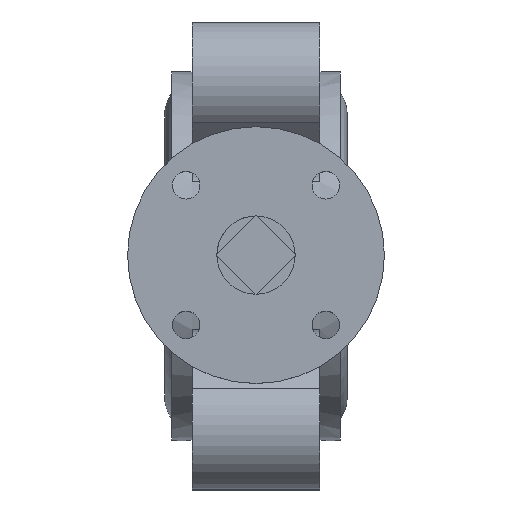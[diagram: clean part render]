
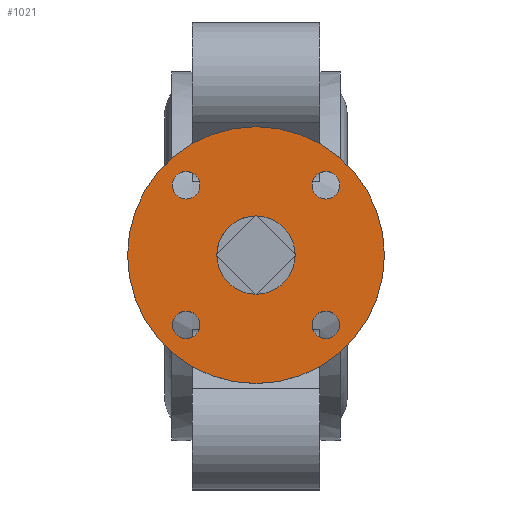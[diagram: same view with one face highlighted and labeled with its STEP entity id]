
A CAD part, top view. The second image highlights one B-rep face of the part: STEP entity #1021.
In plain terms, the highlighted planar face has unit normal (0, 0, 1).
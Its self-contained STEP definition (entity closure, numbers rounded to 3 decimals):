
#1021=ADVANCED_FACE('',(#3328,#3330,#3332,#3334,#3336,#3338),#3340,.T.);
#3328=FACE_BOUND('',#3329,.T.);
#3329=EDGE_LOOP('',(#7449));
#3330=FACE_BOUND('',#3331,.T.);
#3331=EDGE_LOOP('',(#7450));
#3332=FACE_BOUND('',#3333,.T.);
#3333=EDGE_LOOP('',(#7451));
#3334=FACE_BOUND('',#3335,.T.);
#3335=EDGE_LOOP('',(#7452));
#3336=FACE_BOUND('',#3337,.T.);
#3337=EDGE_LOOP('',(#7453));
#3338=FACE_BOUND('',#3339,.T.);
#3339=EDGE_LOOP('',(#7454));
#3340=PLANE('',#3341);
#3341=AXIS2_PLACEMENT_3D('',#3342,#3343,#3344);
#3342=CARTESIAN_POINT('',(0.,0.,130.));
#3343=DIRECTION('',(0.,0.,1.));
#3344=DIRECTION('',(1.,0.,0.));
#7449=ORIENTED_EDGE('',*,*,#10179,.T.);
#7450=ORIENTED_EDGE('',*,*,#10012,.T.);
#7451=ORIENTED_EDGE('',*,*,#10180,.T.);
#7452=ORIENTED_EDGE('',*,*,#10181,.T.);
#7453=ORIENTED_EDGE('',*,*,#10182,.T.);
#7454=ORIENTED_EDGE('',*,*,#10183,.T.);
#10012=EDGE_CURVE('',#11359,#11359,#11360,.F.);
#10179=EDGE_CURVE('',#11612,#11612,#11613,.T.);
#10180=EDGE_CURVE('',#11614,#11614,#11615,.F.);
#10181=EDGE_CURVE('',#11616,#11616,#11617,.F.);
#10182=EDGE_CURVE('',#11618,#11618,#11619,.F.);
#10183=EDGE_CURVE('',#11620,#11620,#11621,.F.);
#11359=VERTEX_POINT('',#13652);
#11360=CIRCLE('',#13653,9.899);
#11612=VERTEX_POINT('',#14279);
#11613=CIRCLE('',#14280,32.5);
#11614=VERTEX_POINT('',#14284);
#11615=CIRCLE('',#14285,3.5);
#11616=VERTEX_POINT('',#14289);
#11617=CIRCLE('',#14290,3.5);
#11618=VERTEX_POINT('',#14294);
#11619=CIRCLE('',#14295,3.5);
#11620=VERTEX_POINT('',#14299);
#11621=CIRCLE('',#14300,3.5);
#13652=CARTESIAN_POINT('',(0.,-9.899,130.));
#13653=AXIS2_PLACEMENT_3D('',#13654,#13655,#13656);
#13654=CARTESIAN_POINT('',(0.,0.,130.));
#13655=DIRECTION('',(0.,0.,1.));
#13656=DIRECTION('',(0.,-1.,0.));
#14279=CARTESIAN_POINT('',(-32.5,0.,130.));
#14280=AXIS2_PLACEMENT_3D('',#14281,#14282,#14283);
#14281=CARTESIAN_POINT('',(0.,0.,130.));
#14282=DIRECTION('',(0.,0.,1.));
#14283=DIRECTION('',(-1.,0.,0.));
#14284=CARTESIAN_POINT('',(-21.178,-17.678,130.));
#14285=AXIS2_PLACEMENT_3D('',#14286,#14287,#14288);
#14286=CARTESIAN_POINT('',(-17.678,-17.678,130.));
#14287=DIRECTION('',(0.,0.,1.));
#14288=DIRECTION('',(-1.,0.,0.));
#14289=CARTESIAN_POINT('',(17.678,-21.178,130.));
#14290=AXIS2_PLACEMENT_3D('',#14291,#14292,#14293);
#14291=CARTESIAN_POINT('',(17.678,-17.678,130.));
#14292=DIRECTION('',(0.,0.,1.));
#14293=DIRECTION('',(0.,-1.,0.));
#14294=CARTESIAN_POINT('',(21.178,17.678,130.));
#14295=AXIS2_PLACEMENT_3D('',#14296,#14297,#14298);
#14296=CARTESIAN_POINT('',(17.678,17.678,130.));
#14297=DIRECTION('',(0.,0.,1.));
#14298=DIRECTION('',(1.,0.,0.));
#14299=CARTESIAN_POINT('',(-17.678,21.178,130.));
#14300=AXIS2_PLACEMENT_3D('',#14301,#14302,#14303);
#14301=CARTESIAN_POINT('',(-17.678,17.678,130.));
#14302=DIRECTION('',(0.,0.,1.));
#14303=DIRECTION('',(0.,1.,0.));
